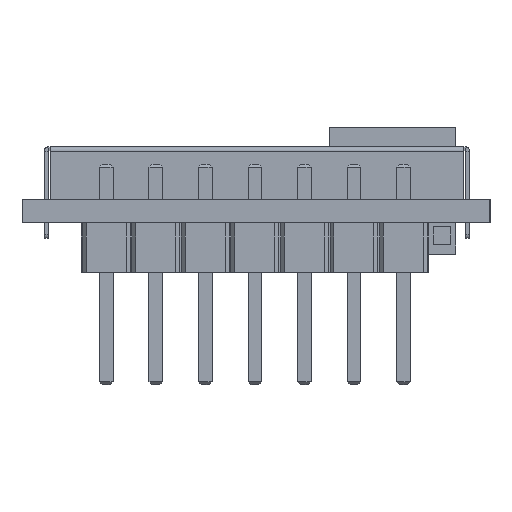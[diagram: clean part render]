
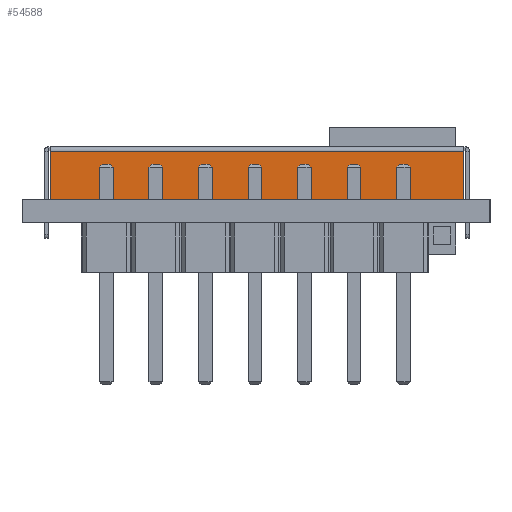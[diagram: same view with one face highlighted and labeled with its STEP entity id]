
A CAD part, left-side view. The second image highlights one B-rep face of the part: STEP entity #54588.
In plain terms, the highlighted planar face has unit normal (-1, 0, 0).
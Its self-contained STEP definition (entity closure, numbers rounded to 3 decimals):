
#49587 = CYLINDRICAL_SURFACE('',#49588,0.22);
#49588 = AXIS2_PLACEMENT_3D('',#49589,#49590,#49591);
#49589 = CARTESIAN_POINT('',(-16.63,10.6,-0.22));
#49590 = DIRECTION('',(0.,1.,0.));
#49591 = DIRECTION('',(-1.,0.,0.));
#54028 = VERTEX_POINT('',#54029);
#54029 = CARTESIAN_POINT('',(-16.85,-10.6,-0.22));
#54043 = PLANE('',#54044);
#54044 = AXIS2_PLACEMENT_3D('',#54045,#54046,#54047);
#54045 = CARTESIAN_POINT('',(-16.85,-10.6,-0.2));
#54046 = DIRECTION('',(0.,1.,0.));
#54047 = DIRECTION('',(-1.,0.,0.));
#54149 = VERTEX_POINT('',#54150);
#54150 = CARTESIAN_POINT('',(-16.85,10.6,-0.22));
#54256 = PLANE('',#54257);
#54257 = AXIS2_PLACEMENT_3D('',#54258,#54259,#54260);
#54258 = CARTESIAN_POINT('',(-16.85,10.6,-2.7));
#54259 = DIRECTION('',(0.,-1.,0.));
#54260 = DIRECTION('',(1.,0.,0.));
#54339 = EDGE_CURVE('',#54149,#54028,#54340,.T.);
#54340 = SURFACE_CURVE('',#54341,(#54345,#54374),.PCURVE_S1.);
#54341 = LINE('',#54342,#54343);
#54342 = CARTESIAN_POINT('',(-16.85,0.,-0.22));
#54343 = VECTOR('',#54344,1.);
#54344 = DIRECTION('',(0.,-1.,0.));
#54345 = PCURVE('',#49587,#54346);
#54346 = DEFINITIONAL_REPRESENTATION('',(#54347),#54373);
#54347 = B_SPLINE_CURVE_WITH_KNOTS('',3,(#54348,#54349,#54350,#54351,
    #54352,#54353,#54354,#54355,#54356,#54357,#54358,#54359,#54360,
    #54361,#54362,#54363,#54364,#54365,#54366,#54367,#54368,#54369,
    #54370,#54371,#54372),.UNSPECIFIED.,.F.,.F.,(4,1,1,1,1,1,1,1,1,1,1,1
    ,1,1,1,1,1,1,1,1,1,1,4),(-10.6,-9.636,-8.673,
    -7.709,-6.745,-5.782,-4.818,
    -3.855,-2.891,-1.927,-0.964,
    0.,0.964,1.927,2.891,
    3.855,4.818,5.782,6.745,
    7.709,8.673,9.636,10.6),.UNSPECIFIED.);
#54348 = CARTESIAN_POINT('',(0.,0.));
#54349 = CARTESIAN_POINT('',(0.,-0.321));
#54350 = CARTESIAN_POINT('',(0.,-0.964));
#54351 = CARTESIAN_POINT('',(0.,-1.927));
#54352 = CARTESIAN_POINT('',(0.,-2.891));
#54353 = CARTESIAN_POINT('',(0.,-3.855));
#54354 = CARTESIAN_POINT('',(0.,-4.818));
#54355 = CARTESIAN_POINT('',(0.,-5.782));
#54356 = CARTESIAN_POINT('',(0.,-6.745));
#54357 = CARTESIAN_POINT('',(0.,-7.709));
#54358 = CARTESIAN_POINT('',(0.,-8.673));
#54359 = CARTESIAN_POINT('',(0.,-9.636));
#54360 = CARTESIAN_POINT('',(0.,-10.6));
#54361 = CARTESIAN_POINT('',(0.,-11.564));
#54362 = CARTESIAN_POINT('',(0.,-12.527));
#54363 = CARTESIAN_POINT('',(0.,-13.491));
#54364 = CARTESIAN_POINT('',(0.,-14.455));
#54365 = CARTESIAN_POINT('',(0.,-15.418));
#54366 = CARTESIAN_POINT('',(0.,-16.382));
#54367 = CARTESIAN_POINT('',(0.,-17.345));
#54368 = CARTESIAN_POINT('',(0.,-18.309));
#54369 = CARTESIAN_POINT('',(0.,-19.273));
#54370 = CARTESIAN_POINT('',(0.,-20.236));
#54371 = CARTESIAN_POINT('',(0.,-20.879));
#54372 = CARTESIAN_POINT('',(0.,-21.2));
#54373 = ( GEOMETRIC_REPRESENTATION_CONTEXT(2) 
PARAMETRIC_REPRESENTATION_CONTEXT() REPRESENTATION_CONTEXT('2D SPACE',''
  ) );
#54374 = PCURVE('',#54375,#54380);
#54375 = PLANE('',#54376);
#54376 = AXIS2_PLACEMENT_3D('',#54377,#54378,#54379);
#54377 = CARTESIAN_POINT('',(-16.85,0.,
    0.));
#54378 = DIRECTION('',(1.,0.,0.));
#54379 = DIRECTION('',(0.,0.,-1.));
#54380 = DEFINITIONAL_REPRESENTATION('',(#54381),#54385);
#54381 = LINE('',#54382,#54383);
#54382 = CARTESIAN_POINT('',(0.22,0.));
#54383 = VECTOR('',#54384,1.);
#54384 = DIRECTION('',(0.,-1.));
#54385 = ( GEOMETRIC_REPRESENTATION_CONTEXT(2) 
PARAMETRIC_REPRESENTATION_CONTEXT() REPRESENTATION_CONTEXT('2D SPACE',''
  ) );
#54470 = VERTEX_POINT('',#54471);
#54471 = CARTESIAN_POINT('',(-16.85,10.6,-2.7));
#54485 = PLANE('',#54486);
#54486 = AXIS2_PLACEMENT_3D('',#54487,#54488,#54489);
#54487 = CARTESIAN_POINT('',(-16.85,-10.6,-2.7));
#54488 = DIRECTION('',(0.,0.,1.));
#54489 = DIRECTION('',(1.,0.,0.));
#54497 = EDGE_CURVE('',#54149,#54470,#54498,.T.);
#54498 = SURFACE_CURVE('',#54499,(#54503,#54510),.PCURVE_S1.);
#54499 = LINE('',#54500,#54501);
#54500 = CARTESIAN_POINT('',(-16.85,10.6,-2.7));
#54501 = VECTOR('',#54502,1.);
#54502 = DIRECTION('',(0.,0.,-1.));
#54503 = PCURVE('',#54256,#54504);
#54504 = DEFINITIONAL_REPRESENTATION('',(#54505),#54509);
#54505 = LINE('',#54506,#54507);
#54506 = CARTESIAN_POINT('',(0.,0.));
#54507 = VECTOR('',#54508,1.);
#54508 = DIRECTION('',(0.,-1.));
#54509 = ( GEOMETRIC_REPRESENTATION_CONTEXT(2) 
PARAMETRIC_REPRESENTATION_CONTEXT() REPRESENTATION_CONTEXT('2D SPACE',''
  ) );
#54510 = PCURVE('',#54375,#54511);
#54511 = DEFINITIONAL_REPRESENTATION('',(#54512),#54516);
#54512 = LINE('',#54513,#54514);
#54513 = CARTESIAN_POINT('',(2.7,10.6));
#54514 = VECTOR('',#54515,1.);
#54515 = DIRECTION('',(1.,0.));
#54516 = ( GEOMETRIC_REPRESENTATION_CONTEXT(2) 
PARAMETRIC_REPRESENTATION_CONTEXT() REPRESENTATION_CONTEXT('2D SPACE',''
  ) );
#54522 = EDGE_CURVE('',#54523,#54028,#54525,.T.);
#54523 = VERTEX_POINT('',#54524);
#54524 = CARTESIAN_POINT('',(-16.85,-10.6,-2.7));
#54525 = SURFACE_CURVE('',#54526,(#54530,#54537),.PCURVE_S1.);
#54526 = LINE('',#54527,#54528);
#54527 = CARTESIAN_POINT('',(-16.85,-10.6,-0.2));
#54528 = VECTOR('',#54529,1.);
#54529 = DIRECTION('',(0.,0.,1.));
#54530 = PCURVE('',#54043,#54531);
#54531 = DEFINITIONAL_REPRESENTATION('',(#54532),#54536);
#54532 = LINE('',#54533,#54534);
#54533 = CARTESIAN_POINT('',(0.,0.));
#54534 = VECTOR('',#54535,1.);
#54535 = DIRECTION('',(0.,1.));
#54536 = ( GEOMETRIC_REPRESENTATION_CONTEXT(2) 
PARAMETRIC_REPRESENTATION_CONTEXT() REPRESENTATION_CONTEXT('2D SPACE',''
  ) );
#54537 = PCURVE('',#54375,#54538);
#54538 = DEFINITIONAL_REPRESENTATION('',(#54539),#54543);
#54539 = LINE('',#54540,#54541);
#54540 = CARTESIAN_POINT('',(0.2,-10.6));
#54541 = VECTOR('',#54542,1.);
#54542 = DIRECTION('',(-1.,0.));
#54543 = ( GEOMETRIC_REPRESENTATION_CONTEXT(2) 
PARAMETRIC_REPRESENTATION_CONTEXT() REPRESENTATION_CONTEXT('2D SPACE',''
  ) );
#54588 = ADVANCED_FACE('',(#54589),#54375,.F.);
#54589 = FACE_BOUND('',#54590,.T.);
#54590 = EDGE_LOOP('',(#54591,#54592,#54593,#54614));
#54591 = ORIENTED_EDGE('',*,*,#54339,.F.);
#54592 = ORIENTED_EDGE('',*,*,#54497,.T.);
#54593 = ORIENTED_EDGE('',*,*,#54594,.T.);
#54594 = EDGE_CURVE('',#54470,#54523,#54595,.T.);
#54595 = SURFACE_CURVE('',#54596,(#54600,#54607),.PCURVE_S1.);
#54596 = LINE('',#54597,#54598);
#54597 = CARTESIAN_POINT('',(-16.85,-10.6,-2.7));
#54598 = VECTOR('',#54599,1.);
#54599 = DIRECTION('',(0.,-1.,0.));
#54600 = PCURVE('',#54375,#54601);
#54601 = DEFINITIONAL_REPRESENTATION('',(#54602),#54606);
#54602 = LINE('',#54603,#54604);
#54603 = CARTESIAN_POINT('',(2.7,-10.6));
#54604 = VECTOR('',#54605,1.);
#54605 = DIRECTION('',(0.,-1.));
#54606 = ( GEOMETRIC_REPRESENTATION_CONTEXT(2) 
PARAMETRIC_REPRESENTATION_CONTEXT() REPRESENTATION_CONTEXT('2D SPACE',''
  ) );
#54607 = PCURVE('',#54485,#54608);
#54608 = DEFINITIONAL_REPRESENTATION('',(#54609),#54613);
#54609 = LINE('',#54610,#54611);
#54610 = CARTESIAN_POINT('',(0.,0.));
#54611 = VECTOR('',#54612,1.);
#54612 = DIRECTION('',(0.,-1.));
#54613 = ( GEOMETRIC_REPRESENTATION_CONTEXT(2) 
PARAMETRIC_REPRESENTATION_CONTEXT() REPRESENTATION_CONTEXT('2D SPACE',''
  ) );
#54614 = ORIENTED_EDGE('',*,*,#54522,.T.);
